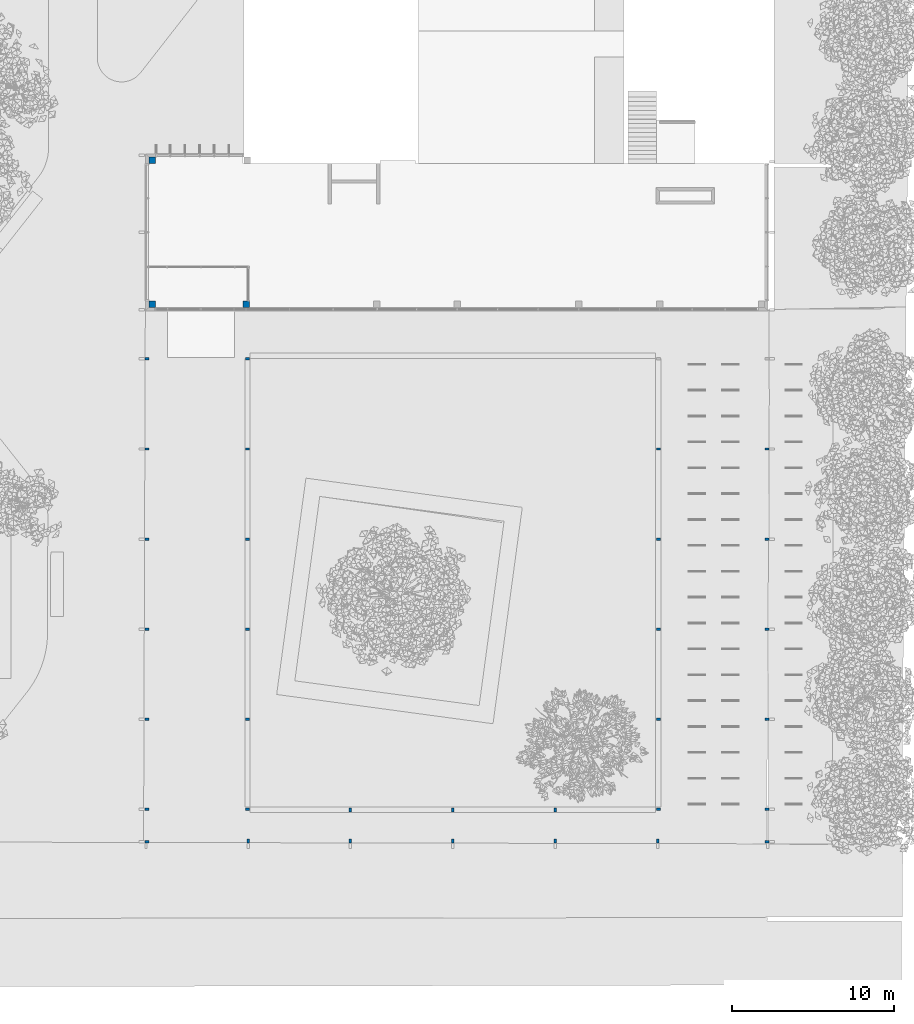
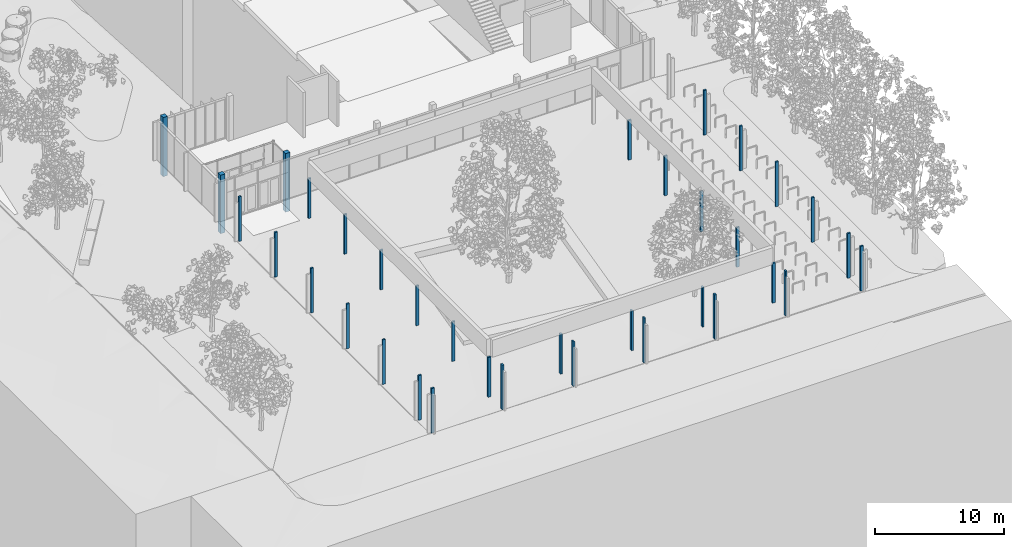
# One storey, part 1 of 69: 35 columns.
"""IFC2X3 building model written with IfcOpenShell, lengths in millimetres."""

from ifc_helpers import new_model, entity, si_unit, converted_unit, derived_unit, money_unit, direction, frame, origin_with_axes, origin_2d_with_axis, place, context, subcontext, project, spatial, rectangle, extrude, material, type_object, element, save


model = new_model("IFC2X3")

# Units and contexts
model_context = context("Model", 3, precision=0.01, world=origin_with_axes(), true_north=direction((0.0, 1.0)))
body_context = subcontext(model_context, "Body", "Model", "MODEL_VIEW")
ifc_project = project(units=[si_unit("LENGTHUNIT", "METRE", prefix="MILLI"), si_unit("AREAUNIT", "SQUARE_METRE"), si_unit("VOLUMEUNIT", "CUBIC_METRE"), converted_unit("PLANEANGLEUNIT", "DEGREE", entity("IfcPlaneAngleMeasure", 0.0174532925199), si_unit("PLANEANGLEUNIT", "RADIAN"), dimensions=[0, 0, 0, 0, 0, 0, 0]), si_unit("SOLIDANGLEUNIT", "STERADIAN"), money_unit("EUR"), converted_unit("TIMEUNIT", "Year", entity("IfcTimeMeasure", 31556926.0), si_unit("TIMEUNIT", "SECOND"), dimensions=[0, 0, 1, 0, 0, 0, 0]), si_unit("MASSUNIT", "GRAM", prefix="KILO"), si_unit("THERMODYNAMICTEMPERATUREUNIT", "DEGREE_CELSIUS"), si_unit("LUMINOUSINTENSITYUNIT", "LUMEN"), si_unit("ENERGYUNIT", "JOULE", prefix="MEGA"), derived_unit("THERMALCONDUCTANCEUNIT", [(si_unit("POWERUNIT", "WATT"), 1), (si_unit("LENGTHUNIT", "METRE"), -1), (si_unit("THERMODYNAMICTEMPERATUREUNIT", "KELVIN"), -1)]), derived_unit("SPECIFICHEATCAPACITYUNIT", [(si_unit("ENERGYUNIT", "JOULE"), 1), (si_unit("MASSUNIT", "GRAM", prefix="KILO"), -1), (si_unit("THERMODYNAMICTEMPERATUREUNIT", "KELVIN"), -1)]), derived_unit("MASSDENSITYUNIT", [(si_unit("MASSUNIT", "GRAM", prefix="KILO"), 1), (si_unit("VOLUMEUNIT", "CUBIC_METRE"), -1)])], contexts=[model_context])

# Site, building, storey
site_placement = place(None, origin_with_axes())
site = spatial("IfcSite", under=ifc_project, at=site_placement, Name="Puškini 31, Narva", CompositionType="ELEMENT")
building_placement = place(site_placement, origin_with_axes())
building = spatial("IfcBuilding", under=site, at=building_placement, Name="Narva Riigigümnaasium", CompositionType="ELEMENT")
storey_placement = place(building_placement, origin_with_axes())
storey = spatial("IfcBuildingStorey", under=building, at=storey_placement, Name="1.korrus 0.00", CompositionType="ELEMENT", Elevation=0.0)

# Columns
ifc_material_1 = material(Name="Betoon element")
column_type_1 = type_object("IfcColumnType", Name="Betoon element 400 x 400", PredefinedType="COLUMN")
column_1_placement = place(storey_placement, frame((16323.9999994, 159199.999992, -1320.0), z_axis=(0.0, 0.0, 1.0), x_axis=(0.0, 1.0, 0.0)))
element("IfcColumn", 1, at=column_1_placement, inside=storey, type_object=column_type_1, material=ifc_material_1, Name="Post", ObjectType="COLUMN", context=body_context, shape_type="SweptSolid", body=[
    extrude(rectangle(XDim=400.0, YDim=400.0, at=origin_2d_with_axis()), origin_with_axes(), (0.0, 0.0, 1.0), 5590.0),
])
for number, where, z_axis, x_axis, name in (
    (2, (22130.3673645, 150300.00001, -1320.0), (0.0, 0.0, 1.0), (0.0, 1.0, 0.0), "Post"),
    (3, (16321.9999994, 150300.00001, -1320.0), (0.0, 0.0, 1.0), (0.0, 1.0, 0.0), "Post"),
):
    element("IfcColumn", number, at=place(storey_placement, frame(where, z_axis=z_axis, x_axis=x_axis)), inside=storey, type_object=column_type_1, material=ifc_material_1, Name=name, ObjectType="COLUMN", context=body_context, shape_type="SweptSolid", body=[
        extrude(rectangle(XDim=400.0, YDim=400.0, at=origin_2d_with_axis()), origin_with_axes(), (0.0, 0.0, 1.0), 5540.0),
    ])
ifc_material_2 = material(Name="ET-05_Teras")
column_type_2 = type_object("IfcColumnType", Name="ET-05_Teras 150 x 250", PredefinedType="COLUMN")
column_2_placement = place(storey_placement, frame((22205.3673529, 119075.000629, 0.0), z_axis=(0.0, 0.0, 1.0), x_axis=(0.0, 1.0, 0.0)))
element("IfcColumn", 4, at=column_2_placement, inside=storey, type_object=column_type_2, material=ifc_material_2, Name="POST", ObjectType="COLUMN", context=body_context, shape_type="SweptSolid", body=[
    extrude(rectangle(XDim=150.001257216, YDim=250.000023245, at=origin_2d_with_axis()), origin_with_axes(), (0.0, 0.0, 1.0), 3760.0),
])
for number, where, z_axis, x_axis, name in (
    (5, (22205.3673527, 135785.000001, 0.0), (0.0, 0.0, 1.0), (0.0, -1.0, 0.0), "POST"),
    (6, (22205.3673527, 130215.000001, 0.0), (0.0, 0.0, 1.0), (0.0, -1.0, 0.0), "POST"),
):
    element("IfcColumn", number, at=place(storey_placement, frame(where, z_axis=z_axis, x_axis=x_axis)), inside=storey, type_object=column_type_2, material=ifc_material_2, Name=name, ObjectType="COLUMN", context=body_context, shape_type="SweptSolid", body=[
        extrude(rectangle(XDim=150.0, YDim=250.000023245, at=origin_2d_with_axis()), origin_with_axes(), (0.0, 0.0, 1.0), 3760.0),
    ])
column_3_placement = place(storey_placement, frame((15995.0000116, 117074.504108, 0.0), z_axis=(0.0, 0.0, 1.0), x_axis=(0.0, 1.0, 0.0)))
element("IfcColumn", 7, at=column_3_placement, inside=storey, type_object=column_type_2, material=ifc_material_2, Name="POST", ObjectType="COLUMN", context=body_context, shape_type="SweptSolid", body=[
    extrude(rectangle(XDim=150.001257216, YDim=250.000023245, at=origin_2d_with_axis()), origin_with_axes(), (0.0, 0.0, 1.0), 4220.0),
])
for number, where, z_axis, x_axis, name in (
    (8, (41244.9993642, 119025.000012, 0.0), (0.0, 0.0, 1.0), (-1.0, 0.0, 0.0), "POST"),
    (9, (34914.998913, 119025.000012, 0.0), (0.0, 0.0, 1.0), (-1.0, 0.0, 0.0), "POST"),
):
    element("IfcColumn", number, at=place(storey_placement, frame(where, z_axis=z_axis, x_axis=x_axis)), inside=storey, type_object=column_type_2, material=ifc_material_2, Name=name, ObjectType="COLUMN", context=body_context, shape_type="SweptSolid", body=[
        extrude(rectangle(XDim=150.001257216, YDim=250.000023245, at=origin_2d_with_axis()), origin_with_axes(), (0.0, 0.0, 1.0), 3760.0),
    ])
column_4_placement = place(storey_placement, frame((15995.0000116, 146925.000629, 0.0), z_axis=(0.0, 0.0, 1.0), x_axis=(0.0, -1.0, 0.0)))
element("IfcColumn", 10, at=column_4_placement, inside=storey, type_object=column_type_2, material=ifc_material_2, Name="POST", ObjectType="COLUMN", context=body_context, shape_type="SweptSolid", body=[
    extrude(rectangle(XDim=150.001257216, YDim=250.000023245, at=origin_2d_with_axis()), origin_with_axes(), (0.0, 0.0, 1.0), 4220.0),
])
column_5_placement = place(storey_placement, frame((28584.9976557, 119025.000012, 0.0), z_axis=(0.0, 0.0, 1.0), x_axis=(-1.0, 0.0, 0.0)))
element("IfcColumn", 11, at=column_5_placement, inside=storey, type_object=column_type_2, material=ifc_material_2, Name="POST", ObjectType="COLUMN", context=body_context, shape_type="SweptSolid", body=[
    extrude(rectangle(XDim=150.001257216, YDim=250.000023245, at=origin_2d_with_axis()), origin_with_axes(), (0.0, 0.0, 1.0), 3760.0),
])
column_6_placement = place(storey_placement, frame((47625.0000115, 119075.000628, 0.0), z_axis=(0.0, 0.0, 1.0), x_axis=(0.0, -1.0, 0.0)))
element("IfcColumn", 12, at=column_6_placement, inside=storey, type_object=column_type_2, material=ifc_material_2, Name="POST", ObjectType="COLUMN", context=body_context, shape_type="SweptSolid", body=[
    extrude(rectangle(XDim=150.0, YDim=250.000023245, at=origin_2d_with_axis()), origin_with_axes(), (0.0, 0.0, 1.0), 3760.0),
])
column_7_placement = place(storey_placement, frame((47625.0000115, 141355.000629, 0.0), z_axis=(0.0, 0.0, 1.0), x_axis=(0.0, -1.0, 0.0)))
element("IfcColumn", 13, at=column_7_placement, inside=storey, type_object=column_type_2, material=ifc_material_2, Name="POST", ObjectType="COLUMN", context=body_context, shape_type="SweptSolid", body=[
    extrude(rectangle(XDim=150.001257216, YDim=250.000023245, at=origin_2d_with_axis()), origin_with_axes(), (0.0, 0.0, 1.0), 3760.0),
])
for number, where, z_axis, x_axis, name in (
    (14, (47625.0000115, 135785.000001, 0.0), (0.0, 0.0, 1.0), (0.0, -1.0, 0.0), "POST"),
    (15, (47625.0000115, 130215.000001, 0.0), (0.0, 0.0, 1.0), (0.0, -1.0, 0.0), "POST"),
    (16, (47625.2000114, 124645.000001, 0.0), (0.0, 0.0, 1.0), (0.0, -1.0, 0.0), "POST"),
):
    element("IfcColumn", number, at=place(storey_placement, frame(where, z_axis=z_axis, x_axis=x_axis)), inside=storey, type_object=column_type_2, material=ifc_material_2, Name=name, ObjectType="COLUMN", context=body_context, shape_type="SweptSolid", body=[
        extrude(rectangle(XDim=150.0, YDim=250.000023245, at=origin_2d_with_axis()), origin_with_axes(), (0.0, 0.0, 1.0), 3760.0),
    ])
column_8_placement = place(storey_placement, frame((54334.9999894, 117075.001864, 0.0), z_axis=(0.0, 0.0, 1.0), x_axis=(0.0, -1.0, 0.0)))
element("IfcColumn", 17, at=column_8_placement, inside=storey, type_object=column_type_2, material=ifc_material_2, Name="POST", ObjectType="COLUMN", context=body_context, shape_type="SweptSolid", body=[
    extrude(rectangle(XDim=150.0, YDim=250.000023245, at=origin_2d_with_axis()), origin_with_axes(), (0.0, 0.0, 1.0), 4220.0),
])
for number, where, z_axis, x_axis, name in (
    (18, (47575.0006214, 117125.000011, 0.0), (0.0, 0.0, 1.0), (-1.0, 0.0, 0.0), "POST"),
    (19, (34914.998913, 117124.503491, 0.0), (0.0, 0.0, 1.0), (-1.0, 0.0, 0.0), "POST"),
):
    element("IfcColumn", number, at=place(storey_placement, frame(where, z_axis=z_axis, x_axis=x_axis)), inside=storey, type_object=column_type_2, material=ifc_material_2, Name=name, ObjectType="COLUMN", context=body_context, shape_type="SweptSolid", body=[
        extrude(rectangle(XDim=150.001257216, YDim=250.000023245, at=origin_2d_with_axis()), origin_with_axes(), (0.0, 0.0, 1.0), 4220.0),
    ])
column_9_placement = place(storey_placement, frame((22205.3673527, 124645.000001, 0.0), z_axis=(0.0, 0.0, 1.0), x_axis=(0.0, -1.0, 0.0)))
element("IfcColumn", 20, at=column_9_placement, inside=storey, type_object=column_type_2, material=ifc_material_2, Name="POST", ObjectType="COLUMN", context=body_context, shape_type="SweptSolid", body=[
    extrude(rectangle(XDim=150.0, YDim=250.000023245, at=origin_2d_with_axis()), origin_with_axes(), (0.0, 0.0, 1.0), 3760.0),
])
column_10_placement = place(storey_placement, frame((22255.3667359, 117125.000011, 0.0), z_axis=(0.0, 0.0, 1.0), x_axis=(-1.0, 0.0, 0.0)))
element("IfcColumn", 21, at=column_10_placement, inside=storey, type_object=column_type_2, material=ifc_material_2, Name="POST", ObjectType="COLUMN", context=body_context, shape_type="SweptSolid", body=[
    extrude(rectangle(XDim=150.001257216, YDim=250.000023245, at=origin_2d_with_axis()), origin_with_axes(), (0.0, 0.0, 1.0), 4220.0),
])
column_11_placement = place(storey_placement, frame((22205.3673527, 141355.001258, 0.0), z_axis=(0.0, 0.0, 1.0), x_axis=(0.0, -1.0, 0.0)))
element("IfcColumn", 22, at=column_11_placement, inside=storey, type_object=column_type_2, material=ifc_material_2, Name="POST", ObjectType="COLUMN", context=body_context, shape_type="SweptSolid", body=[
    extrude(rectangle(XDim=150.0, YDim=250.000023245, at=origin_2d_with_axis()), origin_with_axes(), (0.0, 0.0, 1.0), 3760.0),
])
column_12_placement = place(storey_placement, frame((15995.0000116, 124645.000001, 0.0), z_axis=(0.0, 0.0, 1.0), x_axis=(0.0, -1.0, 0.0)))
element("IfcColumn", 23, at=column_12_placement, inside=storey, type_object=column_type_2, material=ifc_material_2, Name="POST", ObjectType="COLUMN", context=body_context, shape_type="SweptSolid", body=[
    extrude(rectangle(XDim=150.0, YDim=250.000023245, at=origin_2d_with_axis()), origin_with_axes(), (0.0, 0.0, 1.0), 4220.0),
])
column_13_placement = place(storey_placement, frame((22205.3673527, 146925.000001, 0.0), z_axis=(0.0, 0.0, 1.0), x_axis=(0.0, -1.0, 0.0)))
element("IfcColumn", 24, at=column_13_placement, inside=storey, type_object=column_type_2, material=ifc_material_2, Name="POST", ObjectType="COLUMN", context=body_context, shape_type="SweptSolid", body=[
    extrude(rectangle(XDim=150.0, YDim=250.000023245, at=origin_2d_with_axis()), origin_with_axes(), (0.0, 0.0, 1.0), 3760.0),
])
column_14_placement = place(storey_placement, frame((15994.8000117, 141355.001887, 0.0), z_axis=(0.0, 0.0, 1.0), x_axis=(0.0, -1.0, 0.0)))
element("IfcColumn", 25, at=column_14_placement, inside=storey, type_object=column_type_2, material=ifc_material_2, Name="POST", ObjectType="COLUMN", context=body_context, shape_type="SweptSolid", body=[
    extrude(rectangle(XDim=150.001257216, YDim=250.000023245, at=origin_2d_with_axis()), origin_with_axes(), (0.0, 0.0, 1.0), 4220.0),
])
for number, where, z_axis, x_axis, name in (
    (26, (15994.8000117, 135785.000001, 0.0), (0.0, 0.0, 1.0), (0.0, -1.0, 0.0), "POST"),
    (27, (15994.8000117, 130215.000001, 0.0), (0.0, 0.0, 1.0), (0.0, -1.0, 0.0), "POST"),
    (28, (54334.9999894, 119075.001865, 0.0), (0.0, 0.0, 1.0), (0.0, -1.0, 0.0), "POST"),
):
    element("IfcColumn", number, at=place(storey_placement, frame(where, z_axis=z_axis, x_axis=x_axis)), inside=storey, type_object=column_type_2, material=ifc_material_2, Name=name, ObjectType="COLUMN", context=body_context, shape_type="SweptSolid", body=[
        extrude(rectangle(XDim=150.0, YDim=250.000023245, at=origin_2d_with_axis()), origin_with_axes(), (0.0, 0.0, 1.0), 4220.0),
    ])
column_15_placement = place(storey_placement, frame((15995.0000116, 119075.000629, 0.0), z_axis=(0.0, 0.0, 1.0), x_axis=(0.0, 1.0, 0.0)))
element("IfcColumn", 29, at=column_15_placement, inside=storey, type_object=column_type_2, material=ifc_material_2, Name="POST", ObjectType="COLUMN", context=body_context, shape_type="SweptSolid", body=[
    extrude(rectangle(XDim=150.001257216, YDim=250.000023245, at=origin_2d_with_axis()), origin_with_axes(), (0.0, 0.0, 1.0), 4220.0),
])
for number, where, z_axis, x_axis, name in (
    (30, (54334.9999894, 141355.001865, 0.0), (0.0, 0.0, 1.0), (0.0, -1.0, 0.0), "POST"),
    (31, (54334.9999894, 135785.001865, 0.0), (0.0, 0.0, 1.0), (0.0, -1.0, 0.0), "POST"),
    (32, (54334.9999894, 130215.001865, 0.0), (0.0, 0.0, 1.0), (0.0, -1.0, 0.0), "POST"),
    (33, (54334.9999894, 124645.001865, 0.0), (0.0, 0.0, 1.0), (0.0, -1.0, 0.0), "POST"),
):
    element("IfcColumn", number, at=place(storey_placement, frame(where, z_axis=z_axis, x_axis=x_axis)), inside=storey, type_object=column_type_2, material=ifc_material_2, Name=name, ObjectType="COLUMN", context=body_context, shape_type="SweptSolid", body=[
        extrude(rectangle(XDim=150.0, YDim=250.000023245, at=origin_2d_with_axis()), origin_with_axes(), (0.0, 0.0, 1.0), 4220.0),
    ])
for number, where, z_axis, x_axis, name in (
    (34, (41244.9993642, 117124.503491, 0.0), (0.0, 0.0, 1.0), (-1.0, 0.0, 0.0), "POST"),
    (35, (28584.9976557, 117124.503491, 0.0), (0.0, 0.0, 1.0), (-1.0, 0.0, 0.0), "POST"),
):
    element("IfcColumn", number, at=place(storey_placement, frame(where, z_axis=z_axis, x_axis=x_axis)), inside=storey, type_object=column_type_2, material=ifc_material_2, Name=name, ObjectType="COLUMN", context=body_context, shape_type="SweptSolid", body=[
        extrude(rectangle(XDim=150.001257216, YDim=250.000023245, at=origin_2d_with_axis()), origin_with_axes(), (0.0, 0.0, 1.0), 4220.0),
    ])

save(model, "model.ifc")
